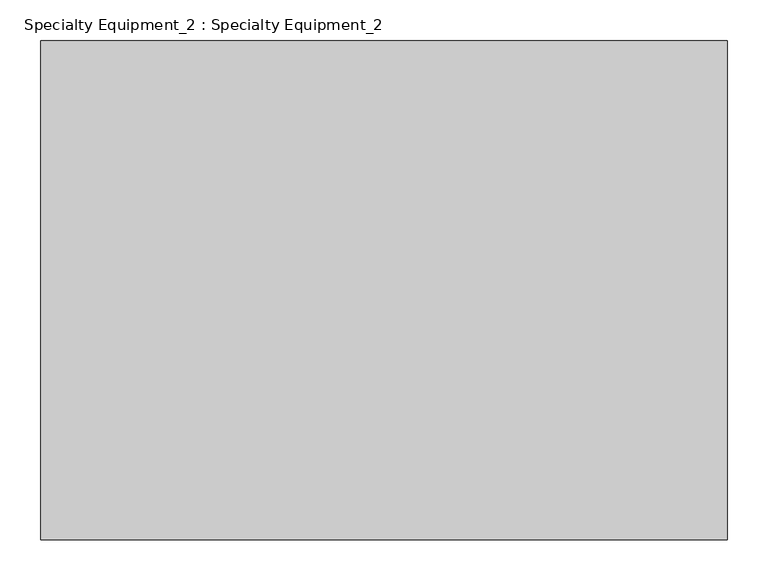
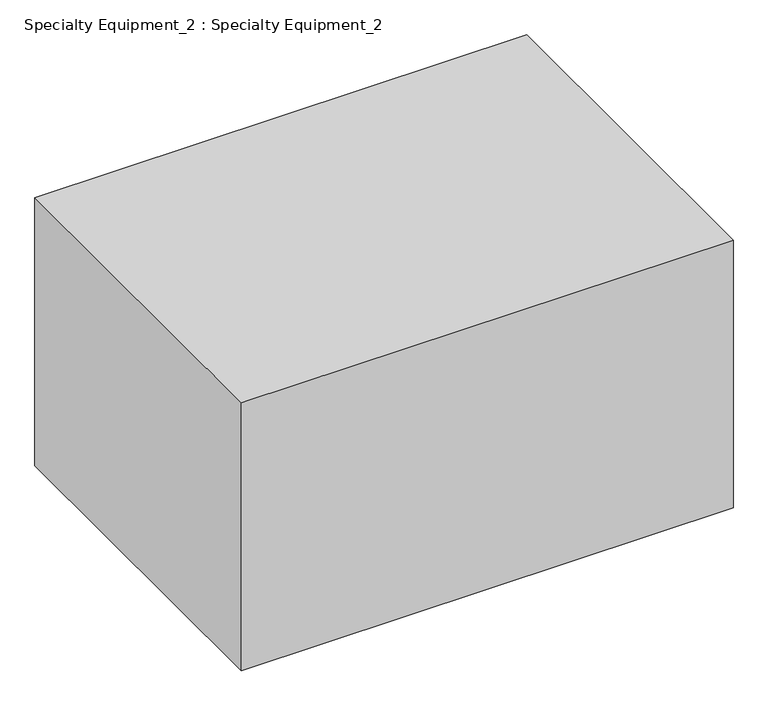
"""IFC4 building model written with IfcOpenShell, lengths in millimetres: proxy geometry, Specialty Equipment_2 : Specialty Equipment_2."""

from ifc_helpers import new_model, si_unit, origin, origin_with_axes, place, context, project, spatial, polyline, outline, extrude, source, transform, mapped, element, save


def specialty_equipment_2_specialty_equipment_2_9d198463(model_context):
    return source(origin(), model_context, "Body", "SweptSolid", [
        extrude(outline(polyline([(419.1, 0.0), (419.1, -609.6), (-419.1, -609.6), (-419.1, 0.0), (419.1, 0.0)])), origin_with_axes(), (0.0, 0.0, 1.0), 482.6),
    ])


if __name__ == "__main__":
    model = new_model("IFC4")
    model_context = context("Model", 3, world=origin())
    ifc_project = project(units=[si_unit("LENGTHUNIT", "METRE", prefix="MILLI")], contexts=[model_context])
    site = spatial("IfcSite", under=ifc_project)
    building = spatial("IfcBuilding", under=site)
    placement = place(None, origin())
    specialty_equipment_2_specialty_equipment_2_shape = specialty_equipment_2_specialty_equipment_2_9d198463(model_context)
    element("IfcBuildingElementProxy", 1, Name="Specialty Equipment_2 : Specialty Equipment_2", ObjectType="Specialty Equipment_2 : Specialty Equipment_2", at=placement, inside=building, context=model_context, shape_type="MappedRepresentation", body=[
        mapped(specialty_equipment_2_specialty_equipment_2_shape, transform((0.0, 0.0, 0.0), x_axis=(1.0, 0.0, 0.0), y_axis=(0.0, 1.0, 0.0), z_axis=(0.0, 0.0, 1.0))),
    ])
    save(model, "model.ifc")
